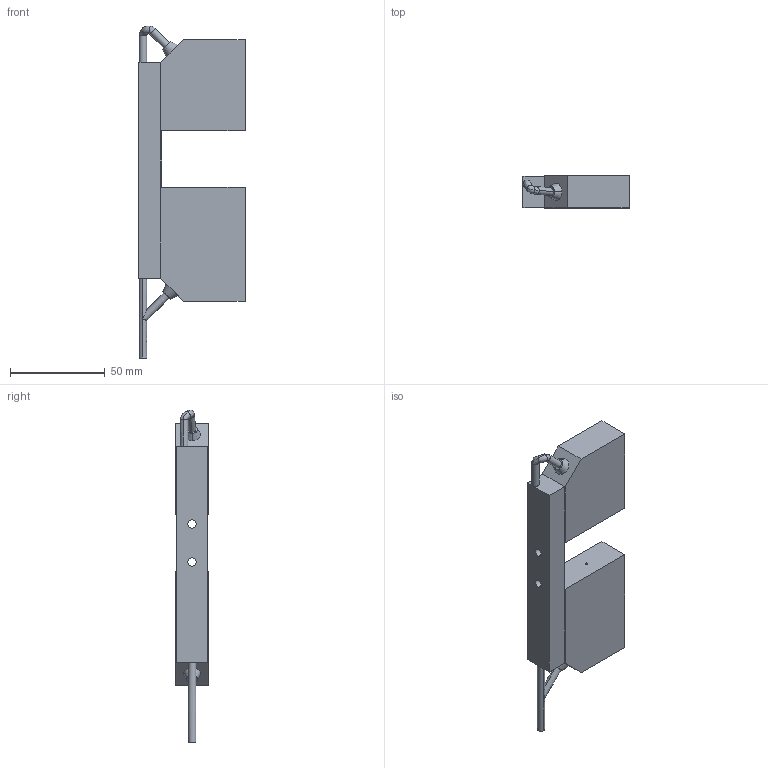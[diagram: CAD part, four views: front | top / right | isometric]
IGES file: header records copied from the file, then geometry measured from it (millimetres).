
Start section: SolidWorks IGES FILE using analytic representation for surfaces
Global section: file name: \\Intra-srv04\開発データ\CAD_Data\CAD委員会\3D電子ｶﾀﾛｸﾞ\製品カタログ（新）\0_IGES\HD-T1030.IGS,41HSolidWorks 2004; native system: by SolidWorks Corporation; preprocessor: Version 5.3; author: YK0651; date: 051101.204112; units: millimetre
Bounding box: 56 x 17 x 175.16 mm (x, y, z)
Volume: 100651.3 mm3; surface area: 21625.4 mm2
Topology: 1 solids, 1 shells, 75 faces, 180 edges, 116 vertices
Faces by surface type: plane 44, revolution 21, bspline 10
